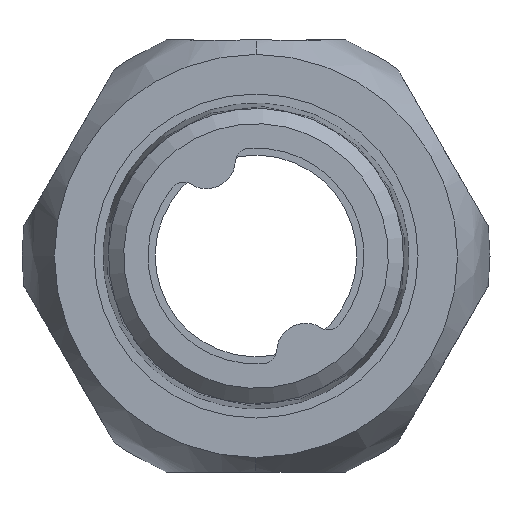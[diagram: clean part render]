
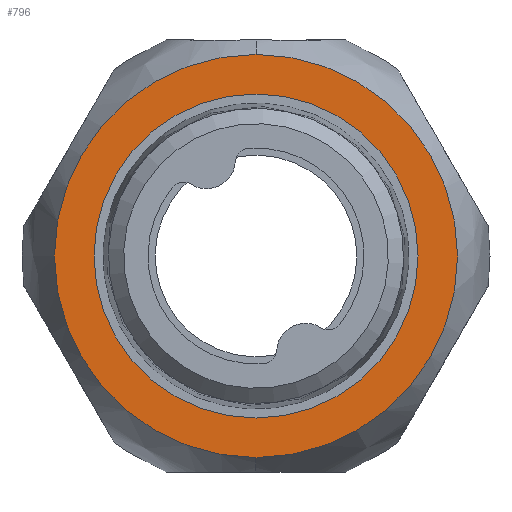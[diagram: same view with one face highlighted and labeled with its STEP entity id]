
A CAD part, left-side view. The second image highlights one B-rep face of the part: STEP entity #796.
In plain terms, the highlighted planar face has unit normal (-1, 0, 0).
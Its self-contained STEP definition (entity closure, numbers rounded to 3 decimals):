
#160=CARTESIAN_POINT('',(0.,11.25,0.0));
#161=VERTEX_POINT('',#160);
#162=CARTESIAN_POINT('',(0.0,0.,0.0));
#163=DIRECTION('',(1.0,0.0,0.0));
#164=DIRECTION('',(0.0,0.0,-1.0));
#165=AXIS2_PLACEMENT_3D('',#162,#163,#164);
#166=CIRCLE('',#165,11.25);
#167=EDGE_CURVE('',#161,#161,#166,.T.);
#218=CARTESIAN_POINT('',(0.,0.,-13.997));
#219=VERTEX_POINT('',#218);
#229=CARTESIAN_POINT('',(0.,13.997,0.0));
#230=VERTEX_POINT('',#229);
#231=CARTESIAN_POINT('',(0.,0.,0.0));
#232=DIRECTION('',(1.0,0.0,0.0));
#233=DIRECTION('',(0.0,1.0,0.0));
#234=AXIS2_PLACEMENT_3D('',#231,#232,#233);
#235=CIRCLE('',#234,13.997);
#236=EDGE_CURVE('',#219,#230,#235,.T.);
#238=CARTESIAN_POINT('',(0.,0.,13.997));
#239=VERTEX_POINT('',#238);
#240=CARTESIAN_POINT('',(0.,0.,0.0));
#241=DIRECTION('',(1.0,0.0,0.0));
#242=DIRECTION('',(0.0,1.0,0.0));
#243=AXIS2_PLACEMENT_3D('',#240,#241,#242);
#244=CIRCLE('',#243,13.997);
#245=EDGE_CURVE('',#230,#239,#244,.T.);
#767=CARTESIAN_POINT('',(0.,0.,0.0));
#768=DIRECTION('',(1.0,0.0,0.0));
#769=DIRECTION('',(0.0,1.0,0.0));
#770=AXIS2_PLACEMENT_3D('',#767,#768,#769);
#771=CIRCLE('',#770,13.997);
#772=EDGE_CURVE('',#239,#219,#771,.T.);
#783=CARTESIAN_POINT('',(0.0,-15.396,-15.396));
#784=DIRECTION('',(-1.0,0.0,0.0));
#785=DIRECTION('',(0.0,0.0,1.0));
#786=AXIS2_PLACEMENT_3D('',#783,#784,#785);
#787=PLANE('',#786);
#788=ORIENTED_EDGE('',*,*,#245,.F.);
#789=ORIENTED_EDGE('',*,*,#236,.F.);
#790=ORIENTED_EDGE('',*,*,#772,.F.);
#791=EDGE_LOOP('',(#788,#789,#790));
#792=FACE_OUTER_BOUND('',#791,.T.);
#793=ORIENTED_EDGE('',*,*,#167,.T.);
#794=EDGE_LOOP('',(#793));
#795=FACE_BOUND('',#794,.T.);
#796=ADVANCED_FACE('',(#792,#795),#787,.T.);
